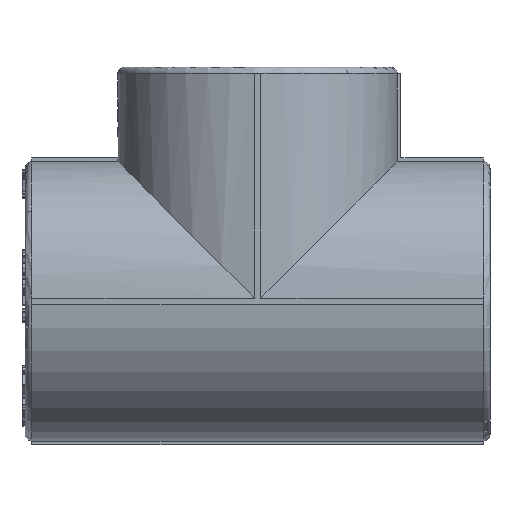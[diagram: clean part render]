
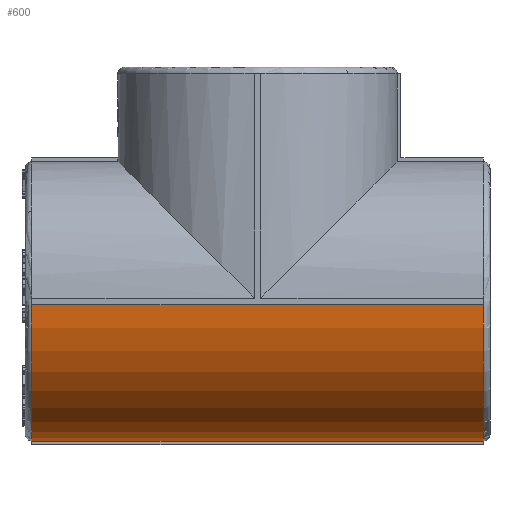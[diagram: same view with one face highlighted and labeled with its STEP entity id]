
A CAD part, left-side view. The second image highlights one B-rep face of the part: STEP entity #600.
In plain terms, the highlighted cylindrical face has radius 21.35 mm (diameter 42.7 mm), a partial arc.
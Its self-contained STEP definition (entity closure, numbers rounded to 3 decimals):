
#600=ADVANCED_FACE('',(#4676),#4678,.T.);
#4676=FACE_BOUND('',#4677,.T.);
#4677=EDGE_LOOP('',(#12135,#12136,#12137,#12138));
#4678=CYLINDRICAL_SURFACE('',#4679,21.35);
#4679=AXIS2_PLACEMENT_3D('',#4680,#4681,#4682);
#4680=CARTESIAN_POINT('',(0.,-35.5,0.));
#4681=DIRECTION('',(0.,1.,0.));
#4682=DIRECTION('',(-1.,0.,0.));
#12135=ORIENTED_EDGE('',*,*,#17405,.F.);
#12136=ORIENTED_EDGE('',*,*,#17406,.T.);
#12137=ORIENTED_EDGE('',*,*,#17407,.F.);
#12138=ORIENTED_EDGE('',*,*,#17376,.F.);
#17376=EDGE_CURVE('',#21357,#21359,#21360,.T.);
#17405=EDGE_CURVE('',#21408,#21357,#21409,.T.);
#17406=EDGE_CURVE('',#21408,#21410,#21411,.T.);
#17407=EDGE_CURVE('',#21359,#21410,#21412,.F.);
#21357=VERTEX_POINT('',#29348);
#21359=VERTEX_POINT('',#29353);
#21360=CIRCLE('',#29354,21.35);
#21408=VERTEX_POINT('',#29470);
#21409=LINE('',#29471,#29472);
#21410=VERTEX_POINT('',#29474);
#21411=CIRCLE('',#29475,21.35);
#21412=LINE('',#29479,#29480);
#29348=CARTESIAN_POINT('',(-0.5,34.5,-21.344));
#29353=CARTESIAN_POINT('',(-21.344,34.5,-0.5));
#29354=AXIS2_PLACEMENT_3D('',#29355,#29356,#29357);
#29355=CARTESIAN_POINT('',(0.,34.5,0.));
#29356=DIRECTION('',(0.,1.,0.));
#29357=DIRECTION('',(-0.023,0.,-1.));
#29470=CARTESIAN_POINT('',(-0.5,-34.5,-21.344));
#29471=CARTESIAN_POINT('',(-0.5,-34.5,-21.344));
#29472=VECTOR('',#29473,1.);
#29473=DIRECTION('',(0.,1.,0.));
#29474=CARTESIAN_POINT('',(-21.344,-34.5,-0.5));
#29475=AXIS2_PLACEMENT_3D('',#29476,#29477,#29478);
#29476=CARTESIAN_POINT('',(0.,-34.5,0.));
#29477=DIRECTION('',(0.,1.,0.));
#29478=DIRECTION('',(-0.023,0.,-1.));
#29479=CARTESIAN_POINT('',(-21.344,-34.5,-0.5));
#29480=VECTOR('',#29481,1.);
#29481=DIRECTION('',(0.,1.,0.));
